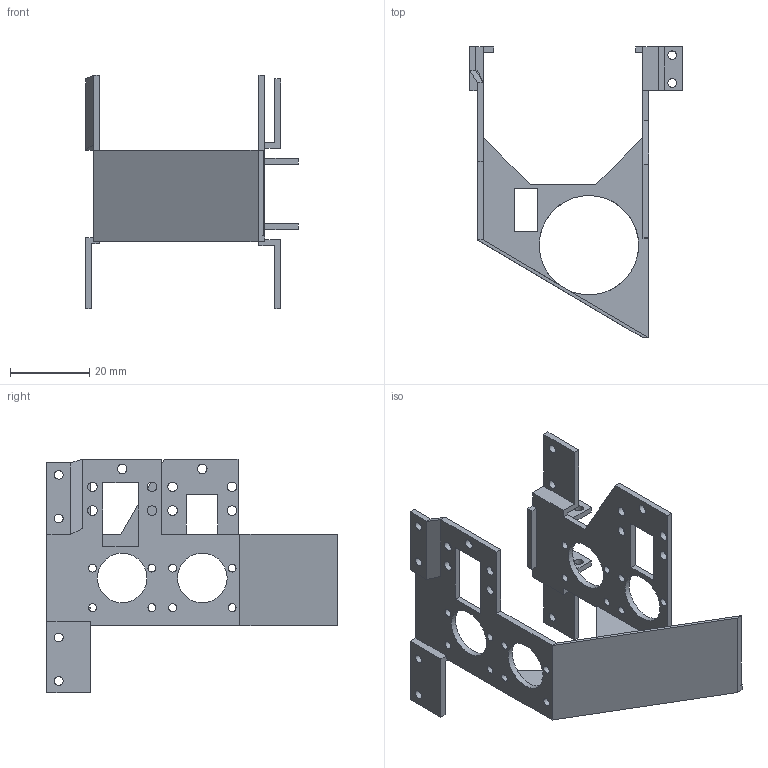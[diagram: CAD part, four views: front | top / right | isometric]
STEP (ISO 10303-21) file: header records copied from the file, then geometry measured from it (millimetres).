
FILE_DESCRIPTION(/* description */ (''),/* implementation_level */ '2;1');
FILE_NAME(/* name */ 'C:/Users/priba/Downloads/GripperBodyB.step',/* time_stamp */ '2020-09-13T09:18:47+02:00',/* author */ (''),/* organization */ (''),/* preprocessor_version */ 'ST-DEVELOPER v18.1',/* originating_system */ 'Autodesk Translation Framework v9.3.0.1241',/* authorisation */ '');
FILE_SCHEMA (('AUTOMOTIVE_DESIGN { 1 0 10303 214 3 1 1 }'));
Length unit declared in the file: millimetre
Products named in the file (2): GripperBodyB; GripperBody
Assembly tree (1 placements, depth 2):
  GripperBodyB
    GripperBody
Bounding box: 53.7 x 73.2 x 59 mm (x, y, z)
Volume: 6766.7 mm3; surface area: 11908.9 mm2
Topology: 1 solids, 1 shells, 128 faces, 371 edges, 243 vertices
Faces by surface type: plane 82, cylinder 45, bspline 1
Full cylindrical faces by diameter (mm): 2 x16, 2.2 x14, 2.4 x10, 12.5 x4, 25.06 x1
Entity records: 4462 total; most frequent: CARTESIAN_POINT 760, ORIENTED_EDGE 742, DIRECTION 725, EDGE_CURVE 371, LINE 277, VECTOR 277, VERTEX_POINT 243, AXIS2_PLACEMENT_3D 224
